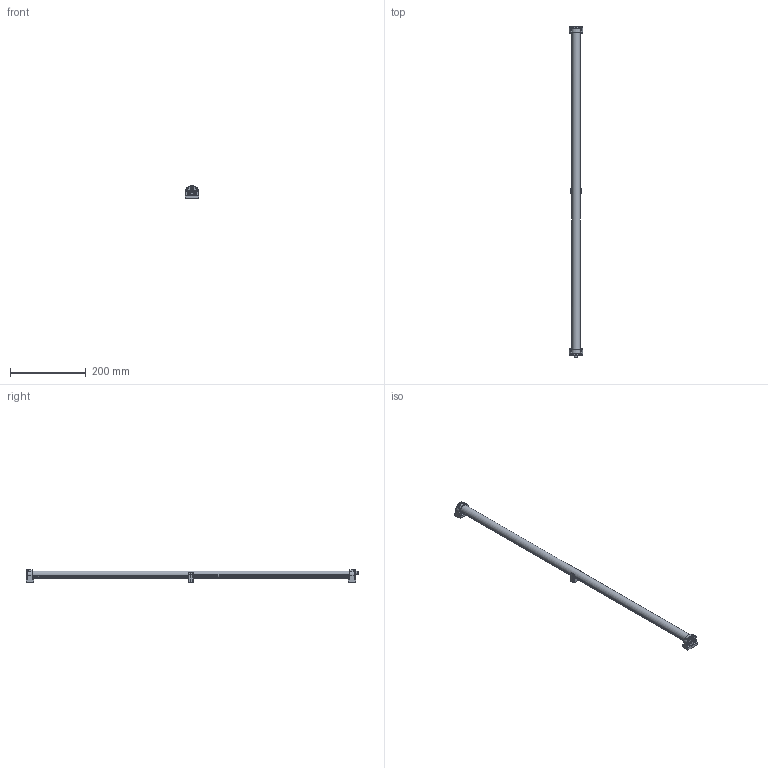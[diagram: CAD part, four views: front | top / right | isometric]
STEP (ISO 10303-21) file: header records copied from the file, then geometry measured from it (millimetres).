
FILE_DESCRIPTION(/* description */ (''),/* implementation_level */ '2;1');
FILE_NAME(/* name */ 'G:\Daten\Leuchten\06100 - LED ELN - ELN-RGBW\03 - CAD\ELN840\led-aufbauleuchte-eln-840.stp',/* time_stamp */ '2023-05-03T12:07:54+02:00',/* author */ ('gzahn'),/* organization */ (''),/* preprocessor_version */ 'ST-DEVELOPER v19',/* originating_system */ 'Autodesk Inventor 2023',/* authorisation */ '');
FILE_SCHEMA (('AUTOMOTIVE_DESIGN { 1 0 10303 214 3 1 1 }'));
Length unit declared in the file: millimetre
Products named in the file (1): led-aufbauleuchte-eln-840
Bounding box: 35 x 876.02 x 34.07 mm (x, y, z)
Volume: 335409.6 mm3; surface area: 84777.4 mm2
Topology: 1 solids, 1 shells, 621 faces, 1712 edges, 1073 vertices
Faces by surface type: plane 210, cylinder 192, cone 108, bspline 81, sphere 16, torus 14
Full cylindrical faces by diameter (mm): 1 x4, 1.3 x4, 4.4 x2, 5.8 x1, 7.4 x2, 7.5 x4, 8 x1
Entity records: 25080 total; most frequent: CARTESIAN_POINT 9142, ORIENTED_EDGE 3408, DIRECTION 3032, EDGE_CURVE 1704, AXIS2_PLACEMENT_3D 1213, VERTEX_POINT 1073, EDGE_LOOP 655, FACE_OUTER_BOUND 621
